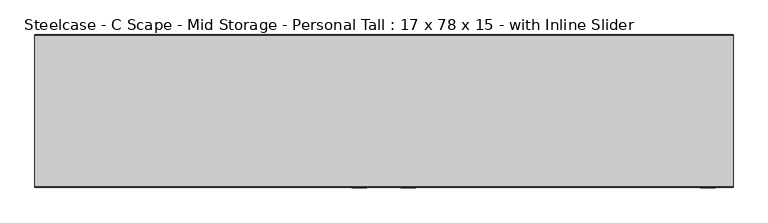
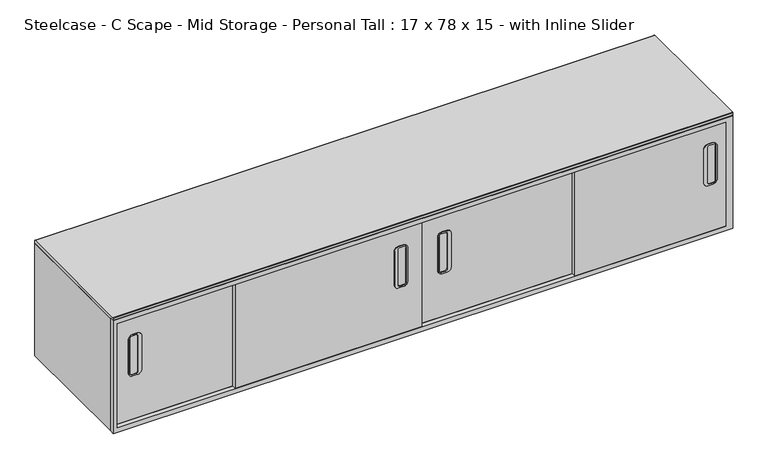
"""IFC4 building model written with IfcOpenShell, lengths in millimetres: furniture geometry, Steelcase - C Scape - Mid Storage - Personal Tall : 17 x 78 x 15 - with Inline Slider."""

from ifc_helpers import new_model, si_unit, point, frame, frame_2d, origin, place, context, project, spatial, polyline, circle_curve, trimmed, segment, composite_curve, outline, extrude, source, transform, mapped, element, save


def steelcase_c_scape_mid_storage_personal_tall_17_x_78_x_15_64178c00(model_context):
    return source(origin(), model_context, "Body", "SweptSolid", [
        extrude(outline(polyline([(1219.2, 1981.2), (1219.2, 0.0), (838.2, 0.0), (838.2, 1981.2), (1219.2, 1981.2)]), holes=[polyline([(1203.9092, 1959.102), (853.4399855, 1959.102), (853.4399855, 13.437709), (1203.9092, 13.437709), (1203.9092, 1959.102)])]), frame((0.0, -216.535, 0.0), z_axis=(0.0, 1.0, 0.0), x_axis=(0.0, 0.0, 1.0)), (0.0, 0.0, 1.0), 14.3764481),
        extrude(outline(polyline([(1959.102, 207.0105809), (1959.102, -187.7821039), (13.437709, -187.7821039), (13.437709, 207.0105809), (1959.102, 207.0105809)])), frame((0.0, 0.0, 1203.9600145), z_axis=(0.0, 0.0, 1.0), x_axis=(1.0, 0.0, 0.0)), (0.0, 0.0, 1.0), 15.2399855),
        extrude(outline(polyline([(1959.102, 207.0105809), (1959.102, -202.1585519), (13.437709, -202.1585519), (13.437709, 207.0105809), (1959.102, 207.0105809)])), frame((0.0, 0.0, 838.2), z_axis=(0.0, 0.0, 1.0), x_axis=(1.0, 0.0, 0.0)), (0.0, 0.0, 1.0), 15.2399855),
        extrude(outline(composite_curve([segment(polyline([(-215.265, 1229.36), (215.265, 1229.36)]), True, "CONTINUOUS"), segment(trimmed(circle_curve(frame_2d((215.265, 1228.09)), 1.27), [point((215.265, 1229.36))], [point((216.535, 1228.09))], False, "CARTESIAN"), True, "CONTINUOUS"), segment(polyline([(216.535, 1228.09), (216.535, 1220.47)]), True, "CONTINUOUS"), segment(trimmed(circle_curve(frame_2d((215.265, 1220.47)), 1.27), [point((216.535, 1220.47))], [point((215.265, 1219.2))], False, "CARTESIAN"), True, "CONTINUOUS"), segment(polyline([(215.265, 1219.2), (-215.265, 1219.2)]), True, "CONTINUOUS"), segment(trimmed(circle_curve(frame_2d((-215.265, 1220.47)), 1.27), [point((-215.265, 1219.2))], [point((-216.535, 1220.47))], False, "CARTESIAN"), True, "CONTINUOUS"), segment(polyline([(-216.535, 1220.47), (-216.535, 1228.09)]), True, "CONTINUOUS"), segment(trimmed(circle_curve(frame_2d((-215.265, 1228.09)), 1.27), [point((-216.535, 1228.09))], [point((-215.265, 1229.36))], False, "CARTESIAN"), True, "CONTINUOUS")], self_intersect=False)), frame((0.0, 0.0, 0.0), z_axis=(1.0, 0.0, 0.0), x_axis=(0.0, 1.0, 0.0)), (0.0, 0.0, 1.0), 1981.2),
        extrude(outline(polyline([(987.425, -202.1585519), (987.425, 207.0105809), (993.775, 207.0105809), (993.775, -202.1585519), (987.425, -202.1585519)])), frame((0.0, 0.0, 853.4399855), z_axis=(0.0, 0.0, 1.0), x_axis=(1.0, 0.0, 0.0)), (0.0, 0.0, 1.0), 365.7600145),
        extrude(outline(composite_curve([segment(trimmed(circle_curve(frame_2d((1137.0119827, 1916.4365115)), 13.716), [point((1137.0119827, 1930.1525115))], [point((1150.7279827, 1916.4365115))], False, "CARTESIAN"), True, "CONTINUOUS"), segment(polyline([(1150.7279827, 1916.4365115), (1150.7279827, 1901.4888855)]), True, "CONTINUOUS"), segment(trimmed(circle_curve(frame_2d((1137.1006082, 1901.4888855)), 13.6273746), [point((1150.7279827, 1901.4888855))], [point((1137.1006082, 1887.8615109))], False, "CARTESIAN"), True, "CONTINUOUS"), segment(polyline([(1137.1006082, 1887.8615109), (1024.7439343, 1887.8615109)]), True, "CONTINUOUS"), segment(trimmed(circle_curve(frame_2d((1024.7439343, 1901.5775109)), 13.716), [point((1024.7439343, 1887.8615109))], [point((1011.0279343, 1901.5775109))], False, "CARTESIAN"), True, "CONTINUOUS"), segment(polyline([(1011.0279343, 1901.5775109), (1011.0279343, 1916.4365115)]), True, "CONTINUOUS"), segment(trimmed(circle_curve(frame_2d((1024.7439343, 1916.4365115)), 13.716), [point((1011.0279343, 1916.4365115))], [point((1024.7439343, 1930.1525115))], False, "CARTESIAN"), True, "CONTINUOUS"), segment(polyline([(1024.7439343, 1930.1525115), (1137.0119827, 1930.1525115)]), True, "CONTINUOUS")], self_intersect=False), holes=[composite_curve([segment(trimmed(circle_curve(frame_2d((1022.2039479, 1918.9765115)), 6.35), [point((1022.2039479, 1925.3265115))], [point((1015.8539479, 1918.9765115))], True, "CARTESIAN"), True, "CONTINUOUS"), segment(polyline([(1015.8539479, 1918.9765115), (1015.8539479, 1906.2765176)]), True, "CONTINUOUS"), segment(trimmed(circle_curve(frame_2d((1022.2039479, 1906.2765176)), 6.35), [point((1015.8539479, 1906.2765176))], [point((1022.2039479, 1899.9265176))], True, "CARTESIAN"), True, "CONTINUOUS"), segment(polyline([(1022.2039479, 1899.9265176), (1139.5519692, 1899.9265176)]), True, "CONTINUOUS"), segment(trimmed(circle_curve(frame_2d((1139.5519692, 1906.2765176)), 6.35), [point((1139.5519692, 1899.9265176))], [point((1145.9019692, 1906.2765176))], True, "CARTESIAN"), True, "CONTINUOUS"), segment(polyline([(1145.9019692, 1906.2765176), (1145.9019692, 1918.9765115)]), True, "CONTINUOUS"), segment(trimmed(circle_curve(frame_2d((1139.5519692, 1918.9765115)), 6.35), [point((1145.9019692, 1918.9765115))], [point((1139.5519692, 1925.3265115))], True, "CARTESIAN"), True, "CONTINUOUS"), segment(polyline([(1139.5519692, 1925.3265115), (1022.2039479, 1925.3265115)]), True, "CONTINUOUS")], self_intersect=False)]), frame((0.0, -218.44, 0.0), z_axis=(0.0, 1.0, 0.0), x_axis=(0.0, 0.0, 1.0)), (0.0, 0.0, 1.0), 2.54),
        extrude(outline(composite_curve([segment(polyline([(1137.8057327, 1037.8057385), (1025.5376843, 1037.8057385)]), True, "CONTINUOUS"), segment(trimmed(circle_curve(frame_2d((1025.5376843, 1051.5217385)), 13.716), [point((1025.5376843, 1037.8057385))], [point((1011.8216843, 1051.5217385))], False, "CARTESIAN"), True, "CONTINUOUS"), segment(polyline([(1011.8216843, 1051.5217385), (1011.8216843, 1066.3807391)]), True, "CONTINUOUS"), segment(trimmed(circle_curve(frame_2d((1025.5376843, 1066.3807391)), 13.716), [point((1011.8216843, 1066.3807391))], [point((1025.5376843, 1080.0967391))], False, "CARTESIAN"), True, "CONTINUOUS"), segment(polyline([(1025.5376843, 1080.0967391), (1137.8943582, 1080.0967391)]), True, "CONTINUOUS"), segment(trimmed(circle_curve(frame_2d((1137.8943582, 1066.4693645)), 13.6273746), [point((1137.8943582, 1080.0967391))], [point((1151.5217327, 1066.4693645))], False, "CARTESIAN"), True, "CONTINUOUS"), segment(polyline([(1151.5217327, 1066.4693645), (1151.5217327, 1051.5217385)]), True, "CONTINUOUS"), segment(trimmed(circle_curve(frame_2d((1137.8057327, 1051.5217385)), 13.716), [point((1151.5217327, 1051.5217385))], [point((1137.8057327, 1037.8057385))], False, "CARTESIAN"), True, "CONTINUOUS")], self_intersect=False), holes=[composite_curve([segment(polyline([(1022.9976979, 1042.6317385), (1140.3457192, 1042.6317385)]), True, "CONTINUOUS"), segment(trimmed(circle_curve(frame_2d((1140.3457192, 1048.9817385)), 6.35), [point((1140.3457192, 1042.6317385))], [point((1146.6957192, 1048.9817385))], True, "CARTESIAN"), True, "CONTINUOUS"), segment(polyline([(1146.6957192, 1048.9817385), (1146.6957192, 1061.6817324)]), True, "CONTINUOUS"), segment(trimmed(circle_curve(frame_2d((1140.3457192, 1061.6817324)), 6.35), [point((1146.6957192, 1061.6817324))], [point((1140.3457192, 1068.0317324))], True, "CARTESIAN"), True, "CONTINUOUS"), segment(polyline([(1140.3457192, 1068.0317324), (1022.9976979, 1068.0317324)]), True, "CONTINUOUS"), segment(trimmed(circle_curve(frame_2d((1022.9976979, 1061.6817324)), 6.35), [point((1022.9976979, 1068.0317324))], [point((1016.6476979, 1061.6817324))], True, "CARTESIAN"), True, "CONTINUOUS"), segment(polyline([(1016.6476979, 1061.6817324), (1016.6476979, 1048.9817385)]), True, "CONTINUOUS"), segment(trimmed(circle_curve(frame_2d((1022.9976979, 1048.9817385)), 6.35), [point((1016.6476979, 1048.9817385))], [point((1022.9976979, 1042.6317385))], True, "CARTESIAN"), True, "CONTINUOUS")], self_intersect=False)]), frame((0.0, -218.44, 0.0), z_axis=(0.0, 1.0, 0.0), x_axis=(0.0, 0.0, 1.0)), (0.0, 0.0, 1.0), 2.54),
        extrude(outline(composite_curve([segment(trimmed(circle_curve(frame_2d((1137.8057327, 927.2970115)), 13.716), [point((1137.8057327, 941.0130115))], [point((1151.5217327, 927.2970115))], False, "CARTESIAN"), True, "CONTINUOUS"), segment(polyline([(1151.5217327, 927.2970115), (1151.5217327, 912.3493855)]), True, "CONTINUOUS"), segment(trimmed(circle_curve(frame_2d((1137.8943582, 912.3493855)), 13.6273746), [point((1151.5217327, 912.3493855))], [point((1137.8943582, 898.7220109))], False, "CARTESIAN"), True, "CONTINUOUS"), segment(polyline([(1137.8943582, 898.7220109), (1025.5376843, 898.7220109)]), True, "CONTINUOUS"), segment(trimmed(circle_curve(frame_2d((1025.5376843, 912.4380109)), 13.716), [point((1025.5376843, 898.7220109))], [point((1011.8216843, 912.4380109))], False, "CARTESIAN"), True, "CONTINUOUS"), segment(polyline([(1011.8216843, 912.4380109), (1011.8216843, 927.2970115)]), True, "CONTINUOUS"), segment(trimmed(circle_curve(frame_2d((1025.5376843, 927.2970115)), 13.716), [point((1011.8216843, 927.2970115))], [point((1025.5376843, 941.0130115))], False, "CARTESIAN"), True, "CONTINUOUS"), segment(polyline([(1025.5376843, 941.0130115), (1137.8057327, 941.0130115)]), True, "CONTINUOUS")], self_intersect=False), holes=[composite_curve([segment(trimmed(circle_curve(frame_2d((1022.9976979, 929.8370115)), 6.35), [point((1022.9976979, 936.1870115))], [point((1016.6476979, 929.8370115))], True, "CARTESIAN"), True, "CONTINUOUS"), segment(polyline([(1016.6476979, 929.8370115), (1016.6476979, 917.1370176)]), True, "CONTINUOUS"), segment(trimmed(circle_curve(frame_2d((1022.9976979, 917.1370176)), 6.35), [point((1016.6476979, 917.1370176))], [point((1022.9976979, 910.7870176))], True, "CARTESIAN"), True, "CONTINUOUS"), segment(polyline([(1022.9976979, 910.7870176), (1140.3457192, 910.7870176)]), True, "CONTINUOUS"), segment(trimmed(circle_curve(frame_2d((1140.3457192, 917.1370176)), 6.35), [point((1140.3457192, 910.7870176))], [point((1146.6957192, 917.1370176))], True, "CARTESIAN"), True, "CONTINUOUS"), segment(polyline([(1146.6957192, 917.1370176), (1146.6957192, 929.8370115)]), True, "CONTINUOUS"), segment(trimmed(circle_curve(frame_2d((1140.3457192, 929.8370115)), 6.35), [point((1146.6957192, 929.8370115))], [point((1140.3457192, 936.1870115))], True, "CARTESIAN"), True, "CONTINUOUS"), segment(polyline([(1140.3457192, 936.1870115), (1022.9976979, 936.1870115)]), True, "CONTINUOUS")], self_intersect=False)]), frame((0.0, -218.44, 0.0), z_axis=(0.0, 1.0, 0.0), x_axis=(0.0, 0.0, 1.0)), (0.0, 0.0, 1.0), 2.54),
        extrude(outline(composite_curve([segment(polyline([(1137.8057327, 48.53876), (1025.5376843, 48.53876)]), True, "CONTINUOUS"), segment(trimmed(circle_curve(frame_2d((1025.5376843, 62.25476)), 13.716), [point((1025.5376843, 48.53876))], [point((1011.8216843, 62.25476))], False, "CARTESIAN"), True, "CONTINUOUS"), segment(polyline([(1011.8216843, 62.25476), (1011.8216843, 77.1137606)]), True, "CONTINUOUS"), segment(trimmed(circle_curve(frame_2d((1025.5376843, 77.1137606)), 13.716), [point((1011.8216843, 77.1137606))], [point((1025.5376843, 90.8297606))], False, "CARTESIAN"), True, "CONTINUOUS"), segment(polyline([(1025.5376843, 90.8297606), (1137.8943582, 90.8297606)]), True, "CONTINUOUS"), segment(trimmed(circle_curve(frame_2d((1137.8943582, 77.202386)), 13.6273746), [point((1137.8943582, 90.8297606))], [point((1151.5217327, 77.202386))], False, "CARTESIAN"), True, "CONTINUOUS"), segment(polyline([(1151.5217327, 77.202386), (1151.5217327, 62.25476)]), True, "CONTINUOUS"), segment(trimmed(circle_curve(frame_2d((1137.8057327, 62.25476)), 13.716), [point((1151.5217327, 62.25476))], [point((1137.8057327, 48.53876))], False, "CARTESIAN"), True, "CONTINUOUS")], self_intersect=False), holes=[composite_curve([segment(polyline([(1022.9976979, 53.36476), (1140.3457192, 53.36476)]), True, "CONTINUOUS"), segment(trimmed(circle_curve(frame_2d((1140.3457192, 59.71476)), 6.35), [point((1140.3457192, 53.36476))], [point((1146.6957192, 59.71476))], True, "CARTESIAN"), True, "CONTINUOUS"), segment(polyline([(1146.6957192, 59.71476), (1146.6957192, 72.4147539)]), True, "CONTINUOUS"), segment(trimmed(circle_curve(frame_2d((1140.3457192, 72.4147539)), 6.35), [point((1146.6957192, 72.4147539))], [point((1140.3457192, 78.7647539))], True, "CARTESIAN"), True, "CONTINUOUS"), segment(polyline([(1140.3457192, 78.7647539), (1022.9976979, 78.7647539)]), True, "CONTINUOUS"), segment(trimmed(circle_curve(frame_2d((1022.9976979, 72.4147539)), 6.35), [point((1022.9976979, 78.7647539))], [point((1016.6476979, 72.4147539))], True, "CARTESIAN"), True, "CONTINUOUS"), segment(polyline([(1016.6476979, 72.4147539), (1016.6476979, 59.71476)]), True, "CONTINUOUS"), segment(trimmed(circle_curve(frame_2d((1022.9976979, 59.71476)), 6.35), [point((1016.6476979, 59.71476))], [point((1022.9976979, 53.36476))], True, "CARTESIAN"), True, "CONTINUOUS")], self_intersect=False)]), frame((0.0, -217.805, 0.0), z_axis=(0.0, 1.0, 0.0), x_axis=(0.0, 0.0, 1.0)), (0.0, 0.0, 1.0), 1.27),
        extrude(outline(polyline([(390.3980817, -202.1585519), (13.437709, -202.1585519), (13.437709, -187.1471039), (390.3980817, -187.1471039), (390.3980817, -202.1585519)])), frame((0.0, 0.0, 853.4399855), z_axis=(0.0, 0.0, 1.0), x_axis=(1.0, 0.0, 0.0)), (0.0, 0.0, 1.0), 350.4692145),
        extrude(outline(polyline([(987.425, -215.9), (390.3980817, -215.9), (390.3980817, -202.1585519), (987.425, -202.1585519), (987.425, -215.9)])), frame((0.0, 0.0, 853.4399855), z_axis=(0.0, 0.0, 1.0), x_axis=(1.0, 0.0, 0.0)), (0.0, 0.0, 1.0), 350.4692145),
        extrude(outline(polyline([(1959.102, -216.535), (1476.4385, -216.535), (1476.4385, -202.1585519), (1959.102, -202.1585519), (1959.102, -216.535)])), frame((0.0, 0.0, 853.4399855), z_axis=(0.0, 0.0, 1.0), x_axis=(1.0, 0.0, 0.0)), (0.0, 0.0, 1.0), 350.4692145),
        extrude(outline(polyline([(1476.4385, -202.1585519), (993.775, -202.1585519), (993.775, -187.7821039), (1476.4385, -187.7821039), (1476.4385, -202.1585519)])), frame((0.0, 0.0, 853.4399855), z_axis=(0.0, 0.0, 1.0), x_axis=(1.0, 0.0, 0.0)), (0.0, 0.0, 1.0), 365.7600145),
        extrude(outline(polyline([(13.437709, -202.1585519), (0.0, -202.1585519), (0.0, 216.535), (1981.2, 216.535), (1981.2, -202.1585519), (1959.102, -202.1585519), (1959.102, 207.0105809), (1021.8892922, 207.0105809), (13.437709, 207.0105809), (13.437709, -202.1585519)])), frame((0.0, 0.0, 838.2), z_axis=(0.0, 0.0, 1.0), x_axis=(1.0, 0.0, 0.0)), (0.0, 0.0, 1.0), 381.0),
    ])


if __name__ == "__main__":
    model = new_model("IFC4")
    model_context = context("Model", 3, world=origin())
    ifc_project = project(units=[si_unit("LENGTHUNIT", "METRE", prefix="MILLI")], contexts=[model_context])
    site = spatial("IfcSite", under=ifc_project)
    building = spatial("IfcBuilding", under=site)
    placement = place(None, origin())
    steelcase_c_scape_mid_storage_personal_tall_17_x_78_x_15_shape = steelcase_c_scape_mid_storage_personal_tall_17_x_78_x_15_64178c00(model_context)
    element("IfcFurniture", 1, ObjectType="Steelcase - C Scape - Mid Storage - Personal Tall : 17 x 78 x 15 - with Inline Slider", at=placement, inside=building, context=model_context, shape_type="MappedRepresentation", body=[
        mapped(steelcase_c_scape_mid_storage_personal_tall_17_x_78_x_15_shape, transform((0.0, 0.0, 0.0), x_axis=(1.0, 0.0, 0.0), y_axis=(0.0, 1.0, 0.0), z_axis=(0.0, 0.0, 1.0))),
    ])
    save(model, "model.ifc")
